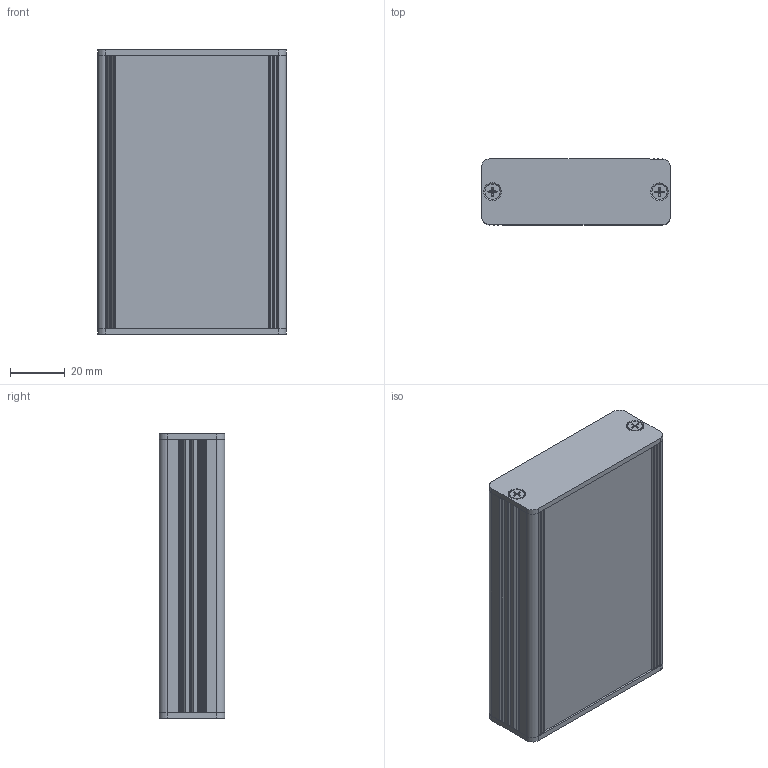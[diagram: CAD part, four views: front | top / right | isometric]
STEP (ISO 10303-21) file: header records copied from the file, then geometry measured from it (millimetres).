
FILE_DESCRIPTION((''),'2;1');
FILE_NAME('C:\Dokumente und Einstellungen\Lochen\Desktop\AKG\AKG_69_24_100.stp','2015-01-15T13:48:46',('Lochen'),(''),'Autodesk Inventor 2012','Autodesk Inventor 2012','');
FILE_SCHEMA(('AUTOMOTIVE_DESIGN { 1 0 10303 214 1 1 1 1 }'));
Length unit declared in the file: millimetre
Products named in the file (4): 001037227; 001032098; L0015SGD000026A; DIN EN ISO 7046-1 H M3 x 10 - 4.8 - H
Assembly tree (8 placements, depth 2):
  001037227
    001032098  x2
    L0015SGD000026A  x2
    DIN EN ISO 7046-1 H M3 x 10 - 4.8 - H  x4
Bounding box: 69.11 x 24.04 x 104 mm (x, y, z)
Volume: 37992.4 mm3; surface area: 49987.9 mm2
Topology: 8 solids, 8 shells, 372 faces, 1040 edges, 684 vertices
Faces by surface type: plane 154, cylinder 146, cone 52, torus 20
Full cylindrical faces by diameter (mm): 2.693 x4, 3 x4, 3.4 x4, 5.5 x4
Entity records: 5267 total; most frequent: CARTESIAN_POINT 1010, DIRECTION 904, ORIENTED_EDGE 856, EDGE_CURVE 428, AXIS2_PLACEMENT_3D 328, VERTEX_POINT 290, VECTOR 248, LINE 248
